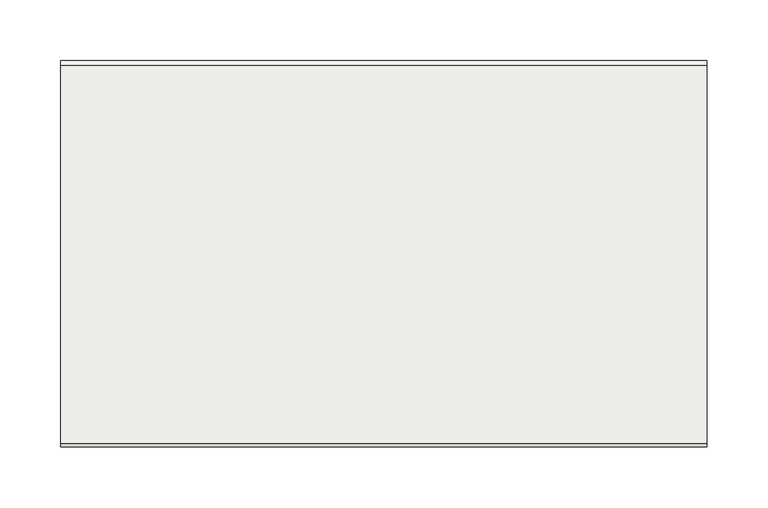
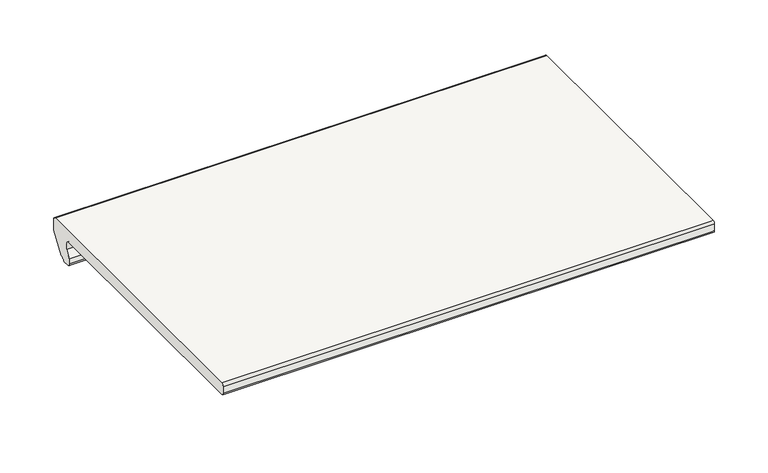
"""IFC4 building model written with IfcOpenShell, lengths in millimetres: slab geometry, ROSA GRES_J62 : Pieza J62_Tao_Beige_Anti-Slip."""

from ifc_helpers import new_model, si_unit, frame, origin, place, context, project, spatial, polyline, circle_curve, source, transform, mapped, element, save
from ifc_brep_helpers import plane_surface, cylinder_surface, revolved_surface, advanced_brep


def slab_d8ab2755(model_context):
    return source(origin(), model_context, "Body", "AdvancedBrep", [
        advanced_brep(
        [(530.0, -317.0, 2.5), (530.0, -314.5, 0.0), (530.0, -29.6363327, 0.0), (530.0, -24.5931401, -10.7276172), (530.0, -29.4411632, -18.2354274), (530.0, -29.4411632, -24.4017055), (530.0, -26.7240304, -27.1188383), (530.0, -20.3835268, -27.1188383), (530.0, -19.4823107, -26.1230058), (530.0, -18.5721049, -25.1262743), (530.0, -17.666394, -25.1262743), (530.0, -14.760096, -23.1626329), (530.0, -0.7963935, -2.84429), (530.0, 0.0, -0.2793766), (530.0, 0.0, 8.2984975), (530.0, -3.9876034, 12.7946269), (530.0, -314.2818333, 12.7946269), (530.0, -316.9989661, 10.0774941), (0.0, -317.0, 2.5), (0.0, -317.0, 10.0774941), (0.0, -314.2818333, 12.7946269), (0.0, -3.9876034, 12.7946269), (0.0, 0.0, 8.2984975), (0.0, 0.0, -0.2793766), (0.0, -0.7963935, -2.84429), (0.0, -14.760096, -23.1626329), (0.0, -17.666394, -25.1262743), (0.0, -18.5721049, -25.1262743), (0.0, -19.473321, -26.1221068), (0.0, -20.3835268, -27.1188383), (0.0, -26.7240304, -27.1188383), (0.0, -29.4411632, -24.4017055), (0.0, -29.4411632, -18.2354274), (0.0, -24.5931401, -10.7276172), (0.0, -29.6363327, 0.0), (0.0, -314.5, 0.0)],
        [
            (0, 1, circle_curve(frame((530.0, -314.5, 2.5), z_axis=(1.0, 0.0, 0.0), x_axis=(0.0, -1.0, 0.0)), 2.5)),
            (1, 2),
            (2, 3, circle_curve(frame((530.0, -30.1604402, -6.7956336), z_axis=(-1.0, 0.0, 0.0), x_axis=(0.0, 0.5768912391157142, 0.8168209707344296)), 6.8158144)),
            (3, 4),
            (4, 5),
            (5, 6, circle_curve(frame((530.0, -26.7240304, -24.4017055), z_axis=(1.0, 0.0, 0.0), x_axis=(0.0, -1.0, 0.0)), 2.7171328)),
            (6, 7),
            (7, 8, circle_curve(frame((530.0, -20.3835268, -26.2131274), z_axis=(1.0, 0.0, 0.0), x_axis=(0.0, 0.09950371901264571, -0.9950371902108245)), 0.9057109)),
            (8, 9, circle_curve(frame((530.0, -18.5721049, -26.0319852), z_axis=(-1.0, 0.0, 0.0), x_axis=(0.0, -1.0, 0.0)), 0.9057109)),
            (9, 10),
            (10, 11, circle_curve(frame((530.0, -18.9818017, -20.0468365), z_axis=(1.0, 0.0, 0.0), x_axis=(0.0, -0.5938246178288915, -0.8045945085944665)), 5.2469978)),
            (11, 12),
            (12, 13, circle_curve(frame((530.0, -4.5285547, -0.2793766), z_axis=(1.0, 0.0, 0.0), x_axis=(0.0, 0.0, -1.0)), 4.5285547)),
            (13, 14),
            (14, 15, circle_curve(frame((530.0, -4.5285547, 8.2984975), z_axis=(1.0, 0.0, 0.0), x_axis=(0.0, 0.9928398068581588, -0.11945341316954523)), 4.5285547)),
            (15, 16),
            (16, 17, circle_curve(frame((530.0, -314.2818333, 10.0774941), z_axis=(1.0, 0.0, 0.0), x_axis=(0.0, 0.0, 1.0)), 2.7171328)),
            (17, 0),
            (18, 19),
            (19, 20, circle_curve(frame((0.0, -314.2818333, 10.0774941), z_axis=(-1.0, 0.0, 0.0), x_axis=(0.0, 0.0, 1.0)), 2.7171328)),
            (20, 21),
            (21, 22, circle_curve(frame((0.0, -4.5285547, 8.2984975), z_axis=(-1.0, 0.0, 0.0), x_axis=(0.0, 0.9928398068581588, -0.11945341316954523)), 4.5285547)),
            (22, 23),
            (23, 24, circle_curve(frame((0.0, -4.5285547, -0.2793766), z_axis=(-1.0, 0.0, 0.0), x_axis=(0.0, 0.0, -1.0)), 4.5285547)),
            (24, 25),
            (25, 26, circle_curve(frame((0.0, -18.9818017, -20.0468365), z_axis=(-1.0, 0.0, 0.0), x_axis=(0.0, -0.5938246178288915, -0.8045945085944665)), 5.2469978)),
            (26, 27),
            (27, 28, circle_curve(frame((0.0, -18.5721049, -26.0319852), z_axis=(1.0, 0.0, 0.0), x_axis=(0.0, -1.0, 0.0)), 0.9057109)),
            (28, 29, circle_curve(frame((0.0, -20.3835268, -26.2131274), z_axis=(-1.0, 0.0, 0.0), x_axis=(0.0, 0.09950371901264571, -0.9950371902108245)), 0.9057109)),
            (29, 30),
            (30, 31, circle_curve(frame((0.0, -26.7240304, -24.4017055), z_axis=(-1.0, 0.0, 0.0), x_axis=(0.0, -1.0, 0.0)), 2.7171328)),
            (31, 32),
            (32, 33),
            (33, 34, circle_curve(frame((0.0, -30.1604402, -6.7956336), z_axis=(1.0, 0.0, 0.0), x_axis=(0.0, 0.5768912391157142, 0.8168209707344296)), 6.8158144)),
            (34, 35),
            (35, 18, circle_curve(frame((0.0, -314.5, 2.5), z_axis=(-1.0, 0.0, 0.0), x_axis=(0.0, -1.0, 0.0)), 2.5)),
            (1, 35),
            (34, 2),
            (0, 18),
            (17, 19),
            (16, 20),
            (15, 21),
            (14, 22),
            (13, 23),
            (12, 24),
            (11, 25),
            (10, 26),
            (9, 27),
            (8, 28),
            (7, 29),
            (6, 30),
            (5, 31),
            (4, 32),
            (3, 33),
        ],
        [
            plane_surface(frame((530.0, -317.0, 10.0774941), z_axis=(1.0, 0.0, 0.0), x_axis=(0.0, 0.0, 1.0))),
            plane_surface(frame((0.0, -317.0, 10.0774941), z_axis=(-1.0, 0.0, 0.0), x_axis=(0.0, 0.0, -1.0))),
            plane_surface(frame((530.0, -172.0681664, 0.0), z_axis=(0.0, 0.0, -1.0), x_axis=(0.0, -1.0, 0.0))),
            cylinder_surface(frame((530.0, -314.5, 2.5), z_axis=(-1.0, 0.0, 0.0), x_axis=(0.0, -1.0, 0.0)), 2.5),
            plane_surface(frame((530.0, -317.0, 6.288747), z_axis=(0.0, -1.0, 0.0), x_axis=(0.0, 0.0, 1.0))),
            cylinder_surface(frame((530.0, -314.2818333, 10.0774941), z_axis=(-1.0, 0.0, 0.0), x_axis=(0.0, 0.0, 1.0)), 2.7171328),
            plane_surface(frame((530.0, -159.1347183, 12.7946269), z_axis=(0.0, 0.0, 1.0), x_axis=(0.0, 1.0, 0.0))),
            cylinder_surface(frame((530.0, -4.5285547, 8.2984975), z_axis=(-1.0, 0.0, 0.0), x_axis=(0.0, 0.9928398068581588, -0.11945341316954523)), 4.5285547),
            plane_surface(frame((530.0, 0.0, 4.0095604), z_axis=(0.0, 1.0, 0.0), x_axis=(0.0, 0.0, -1.0))),
            cylinder_surface(frame((530.0, -4.5285547, -0.2793766), z_axis=(-1.0, 0.0, 0.0), x_axis=(0.0, 0.0, -1.0)), 4.5285547),
            plane_surface(frame((530.0, -7.7782448, -13.0034614), z_axis=(0.0, 0.8241395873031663, -0.5663867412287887), x_axis=(0.0, -0.5663867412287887, -0.8241395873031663))),
            cylinder_surface(frame((530.0, -18.9818017, -20.0468365), z_axis=(-1.0, 0.0, 0.0), x_axis=(0.0, -0.5938246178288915, -0.8045945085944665)), 5.2469978),
            plane_surface(frame((530.0, -18.1192494, -25.1262743), z_axis=(0.0, 5.338162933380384e-12, -1.0), x_axis=(0.0, -1.0, -5.338162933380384e-12))),
            revolved_surface(polyline([(0.0, -19.4778158, -26.0319852), (530.0, -19.4778158, -26.0319852)]), (530.0, -18.5721049, -26.0319852), (-1.0, 0.0, 0.0)),
            cylinder_surface(frame((530.0, -20.3835268, -26.2131274), z_axis=(-1.0, 0.0, 0.0), x_axis=(0.0, 0.09950371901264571, -0.9950371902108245)), 0.9057109),
            plane_surface(frame((530.0, -23.5537786, -27.1188383), z_axis=(0.0, 1.2702183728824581e-12, -1.0), x_axis=(0.0, -1.0, -1.2702183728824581e-12))),
            cylinder_surface(frame((530.0, -26.7240304, -24.4017055), z_axis=(-1.0, 0.0, 0.0), x_axis=(0.0, -1.0, 0.0)), 2.7171328),
            plane_surface(frame((530.0, -29.4411632, -21.3185665), z_axis=(0.0, -1.0, 0.0), x_axis=(0.0, 0.0, 1.0))),
            plane_surface(frame((530.0, -27.0171517, -14.4815223), z_axis=(0.0, -0.8400786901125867, 0.5424645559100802), x_axis=(0.0, 0.5424645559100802, 0.8400786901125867))),
            revolved_surface(polyline([(0.0, -26.228456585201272, -1.2283334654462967), (530.0, -26.228456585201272, -1.2283334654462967)]), (530.0, -30.1604402, -6.7956336), (-1.0, 0.0, 0.0)),
        ],
        [
            (0, [[1, 2, 3, 4, 5, 6, 7, 8, 9, 10, 11, 12, 13, 14, 15, 16, 17, 18]]),
            (1, [[19, 20, 21, 22, 23, 24, 25, 26, 27, 28, 29, 30, 31, 32, 33, 34, 35, 36]]),
            (2, [[37, -35, 38, -2]]),
            (3, [[39, -36, -37, -1]]),
            (4, [[40, -19, -39, -18]]),
            (5, [[41, -20, -40, -17]]),
            (6, [[42, -21, -41, -16]]),
            (7, [[43, -22, -42, -15]]),
            (8, [[44, -23, -43, -14]]),
            (9, [[45, -24, -44, -13]]),
            (10, [[46, -25, -45, -12]]),
            (11, [[47, -26, -46, -11]]),
            (12, [[48, -27, -47, -10]]),
            (13, [[49, -28, -48, -9]]),
            (14, [[50, -29, -49, -8]]),
            (15, [[51, -30, -50, -7]]),
            (16, [[52, -31, -51, -6]]),
            (17, [[53, -32, -52, -5]]),
            (18, [[54, -33, -53, -4]]),
            (19, [[-38, -34, -54, -3]]),
        ],
    ),
    ])


if __name__ == "__main__":
    model = new_model("IFC4")
    model_context = context("Model", 3, world=origin())
    ifc_project = project(units=[si_unit("LENGTHUNIT", "METRE", prefix="MILLI")], contexts=[model_context])
    site = spatial("IfcSite", under=ifc_project)
    building = spatial("IfcBuilding", under=site)
    placement = place(None, origin())
    slab_shape = slab_d8ab2755(model_context)
    element("IfcSlab", 1, ObjectType="ROSA GRES_J62 : Pieza J62_Tao_Beige_Anti-Slip", at=placement, inside=building, context=model_context, shape_type="MappedRepresentation", body=[
        mapped(slab_shape, transform((0.0, 0.0, 0.0), x_axis=(1.0, 0.0, 0.0), y_axis=(0.0, 1.0, 0.0), z_axis=(0.0, 0.0, 1.0))),
    ])
    save(model, "model.ifc")
